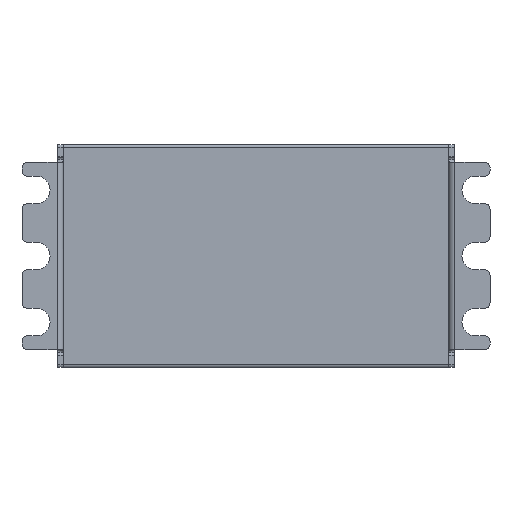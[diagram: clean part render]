
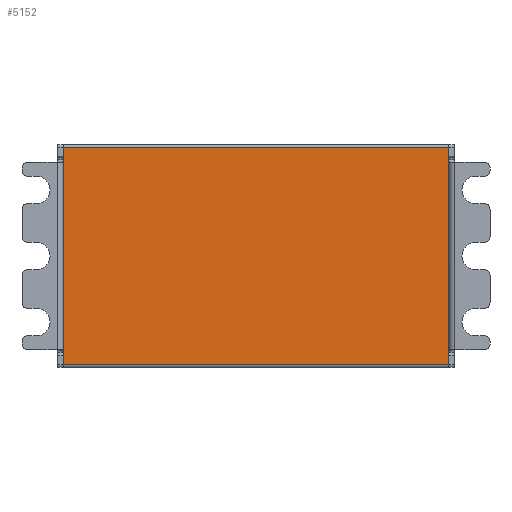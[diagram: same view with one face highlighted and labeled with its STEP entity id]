
A CAD part, front view. The second image highlights one B-rep face of the part: STEP entity #5152.
In plain terms, the highlighted planar face has unit normal (0, -1, 0).
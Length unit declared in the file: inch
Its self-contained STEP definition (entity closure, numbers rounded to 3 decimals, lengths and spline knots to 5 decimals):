
#178=DIRECTION('',(0.,0.,-1.));
#179=VECTOR('',#178,1.55512);
#180=CARTESIAN_POINT('',(1.37795,0.,0.77756));
#181=LINE('',#180,#179);
#186=DIRECTION('',(0.,0.,1.));
#187=VECTOR('',#186,1.55512);
#188=CARTESIAN_POINT('',(-1.37795,0.,-0.77756));
#189=LINE('',#188,#187);
#200=DIRECTION('',(-1.,0.,0.));
#201=VECTOR('',#200,2.75591);
#202=CARTESIAN_POINT('',(1.37795,0.,0.77756));
#203=LINE('',#202,#201);
#3590=DIRECTION('',(1.,0.,0.));
#3591=VECTOR('',#3590,2.75591);
#3592=CARTESIAN_POINT('',(-1.37795,0.,-0.77756));
#3593=LINE('',#3592,#3591);
#4357=CARTESIAN_POINT('',(1.37795,0.,0.77756));
#4358=CARTESIAN_POINT('',(-1.37795,0.,0.77756));
#4359=VERTEX_POINT('',#4357);
#4360=VERTEX_POINT('',#4358);
#4361=CARTESIAN_POINT('',(1.37795,0.,-0.77756));
#4362=VERTEX_POINT('',#4361);
#4363=CARTESIAN_POINT('',(-1.37795,0.,-0.77756));
#4364=VERTEX_POINT('',#4363);
#5137=CARTESIAN_POINT('',(0.,0.,0.));
#5138=DIRECTION('',(0.,1.,0.));
#5139=DIRECTION('',(1.,0.,0.));
#5140=AXIS2_PLACEMENT_3D('',#5137,#5138,#5139);
#5141=PLANE('',#5140);
#5143=ORIENTED_EDGE('',*,*,#5142,.F.);
#5145=ORIENTED_EDGE('',*,*,#5144,.T.);
#5147=ORIENTED_EDGE('',*,*,#5146,.F.);
#5149=ORIENTED_EDGE('',*,*,#5148,.T.);
#5150=EDGE_LOOP('',(#5143,#5145,#5147,#5149));
#5151=FACE_OUTER_BOUND('',#5150,.F.);
#5152=ADVANCED_FACE('',(#5151),#5141,.F.);
#5142=EDGE_CURVE('',#4359,#4360,#203,.T.);
#5144=EDGE_CURVE('',#4359,#4362,#181,.T.);
#5146=EDGE_CURVE('',#4364,#4362,#3593,.T.);
#5148=EDGE_CURVE('',#4364,#4360,#189,.T.);
